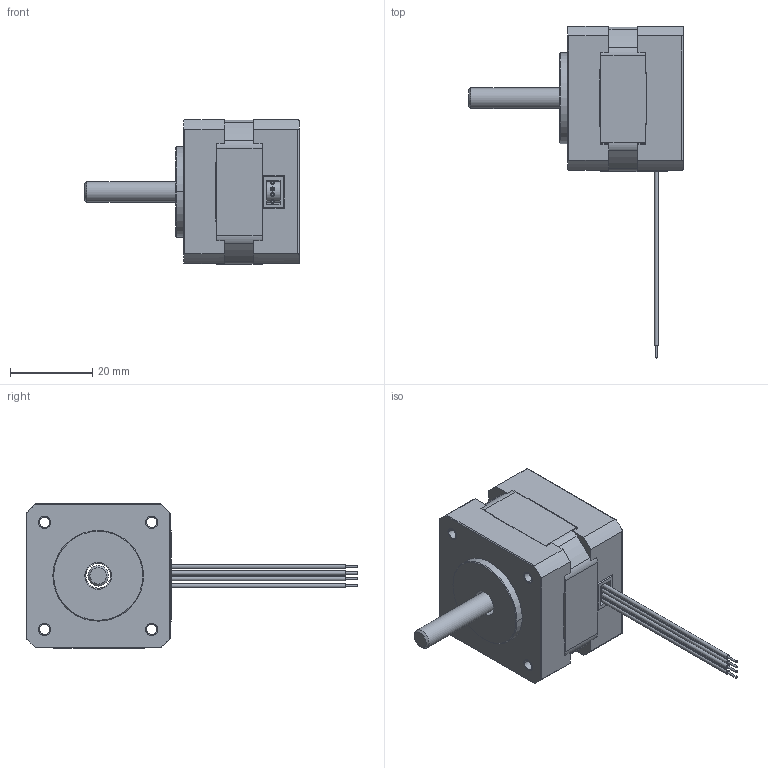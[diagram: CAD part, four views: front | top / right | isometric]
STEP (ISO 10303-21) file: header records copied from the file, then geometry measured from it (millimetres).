
FILE_DESCRIPTION( ('This file contains a STEP AP42 implementation' ,'as created by ZW3D STEP Interface translator.' ,'') ,'2;1' );
FILE_NAME( '35H28H-0504A-XXX.stp' ,'26 114.1629 2', (''), ('ZWCAD Software Co.'), 'Version 1.0', 'ZW3D to STEP translator', '' );
FILE_SCHEMA(('AUTOMOTIVE_DESIGN { 1 0 10303 214 1 1 1 1 }'));
Length unit declared in the file: millimetre
Products named in the file (1): 0
Bounding box: 52 x 80.51 x 35.09 mm (x, y, z)
Volume: 16236.8 mm3; surface area: 16945.3 mm2
Topology: 6 solids, 10 shells, 466 faces, 1405 edges, 897 vertices
Faces by surface type: plane 266, cylinder 167, bspline 29, cone 4
Full cylindrical faces by diameter (mm): 0.5 x8, 1 x2, 1.2 x8, 3.2 x4, 3.4 x4, 5 x1, 5.8 x4, 6 x1, 6.5 x1, 27.79 x1
Entity records: 17123 total; most frequent: CARTESIAN_POINT 3613, ORIENTED_EDGE 2794, DIRECTION 2749, EDGE_CURVE 1405, AXIS2_PLACEMENT_3D 943, VERTEX_POINT 897, VECTOR 863, LINE 863
